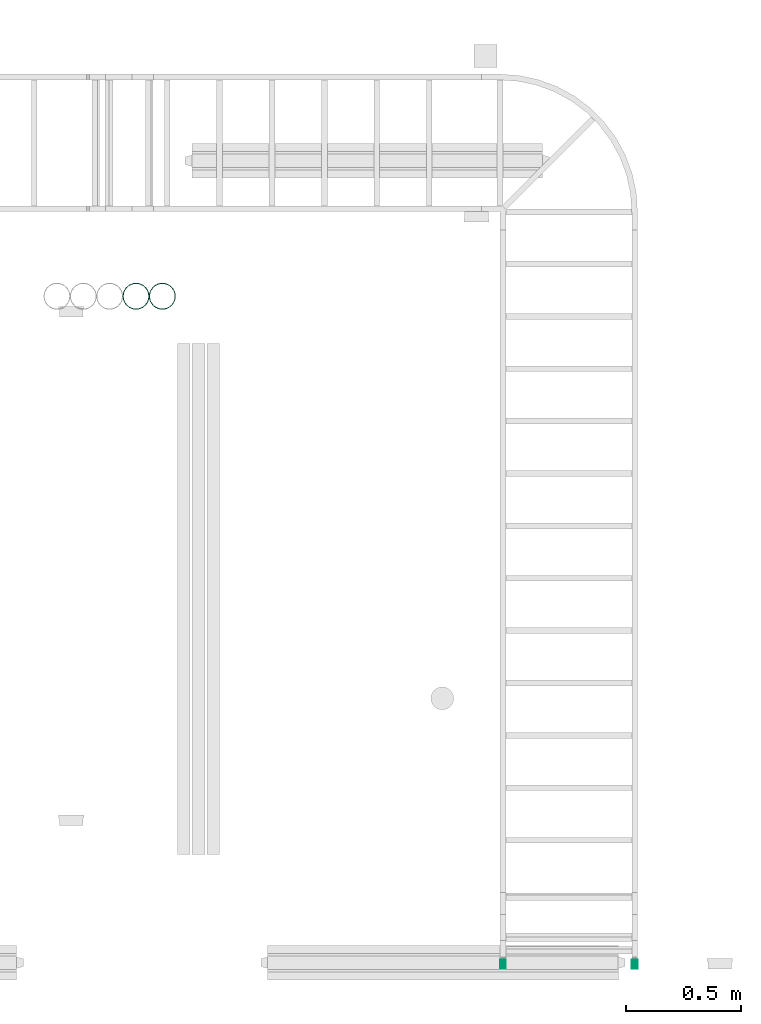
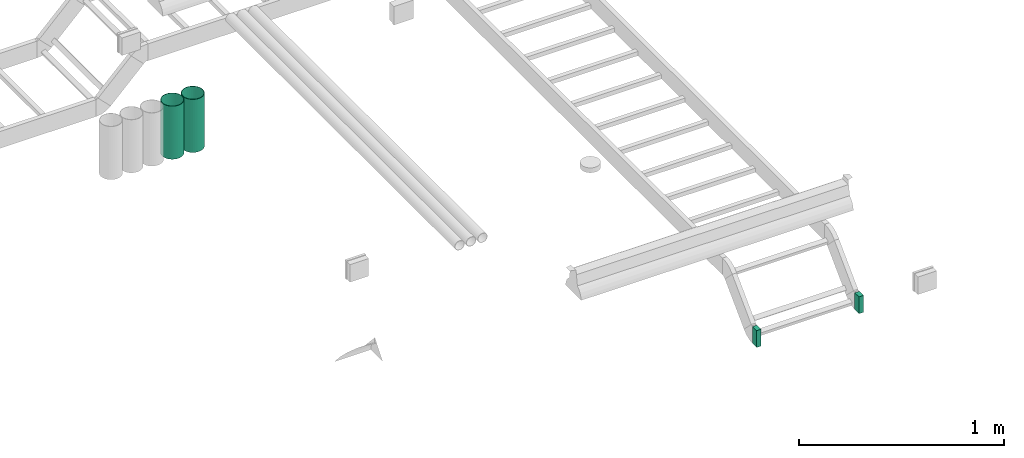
# One storey, part 12 of 14: 3 flow segments.
"""IFC2X3 building model written with IfcOpenShell, lengths in millimetres."""

import ifcopenshell
import ifcopenshell.guid

model = None  # the IFC model being written
_history = None  # IfcOwnerHistory: only IFC2X3 demands one
_inside = {}  # id of a spatial element -> (the spatial element, [elements in it])
_under = {}  # id of a project, library or spatial element -> (it, [spatial elements below it])
_declared = {}  # id of a project -> (the project, [libraries it declares])
_typed = {}  # id of a type object -> (the type object, [elements of that type])
_made_of = {}  # id of a material, layer set ... -> (it, [elements and type objects made of it])


def new_model(schema):
    """Start an empty IFC model of exactly this schema.

    Asked for "IFC4X3", IfcOpenShell would pick the latest addendum, in which some entities
    have other attributes; the version numbers below select the first issue.
    IFC2X3 requires an IfcOwnerHistory on every rooted entity: one is made here for all.
    """
    global model, _history
    if schema == "IFC4X3":
        model = ifcopenshell.file(schema_version=(4, 3, 0, 0))
    else:
        model = ifcopenshell.file(schema=schema)
    _inside.clear()
    _under.clear()
    _declared.clear()
    _typed.clear()
    _made_of.clear()
    _history = None
    if model.schema == "IFC2X3":
        org = make("IfcOrganization", Name="unknown")
        user = make(
            "IfcPersonAndOrganization",
            ThePerson=make("IfcPerson", FamilyName="unknown"),
            TheOrganization=org,
        )
        app = make(
            "IfcApplication",
            ApplicationDeveloper=org,
            Version="unknown",
            ApplicationFullName="unknown",
            ApplicationIdentifier="unknown",
        )
        _history = make(
            "IfcOwnerHistory",
            OwningUser=user,
            OwningApplication=app,
            ChangeAction="ADDED",
            CreationDate=0,
        )
    return model


def make(cls, **values):
    """One entity of the class cls with the attributes given. An attribute that is None is left unset."""
    return model.create_entity(
        cls, **{name: value for name, value in values.items() if value is not None}
    )


def entity(cls, *values):
    """Any entity or typed value of the class cls, its attributes in the order of the schema. None: left unset."""
    e = model.create_entity(cls)
    for i, value in enumerate(values):
        if value is not None:
            e[i] = value
    return e


def rooted(cls, **values):
    """An entity with a GlobalId (a new one), such as an element, a storey or a relation."""
    return make(cls, GlobalId=ifcopenshell.guid.new(), OwnerHistory=_history, **values)


def si_unit(unit_type, name, prefix=None):
    """IfcSIUnit, for example si_unit("LENGTHUNIT", "METRE", prefix="MILLI")."""
    return make("IfcSIUnit", UnitType=unit_type, Prefix=prefix, Name=name)


def converted_unit(unit_type, name, factor, base, dimensions=None, offset=None):
    """IfcConversionBasedUnit, such as the inch: factor (a typed value) times the base unit."""
    return make(
        "IfcConversionBasedUnit"
        if offset is None
        else "IfcConversionBasedUnitWithOffset",
        ConversionOffset=offset,
        Dimensions=None
        if dimensions is None
        else entity("IfcDimensionalExponents", *dimensions),
        UnitType=unit_type,
        Name=name,
        ConversionFactor=make(
            "IfcMeasureWithUnit", ValueComponent=factor, UnitComponent=base
        ),
    )


def derived_unit(unit_type, elements):
    """IfcDerivedUnit: a product of units, each with its exponent."""
    return make(
        "IfcDerivedUnit",
        Elements=[
            make("IfcDerivedUnitElement", Unit=unit, Exponent=power)
            for unit, power in elements
        ],
        UnitType=unit_type,
    )


def assignment(units):
    """IfcUnitAssignment: the units of a project."""
    return None if units is None else make("IfcUnitAssignment", Units=units)


def point(xyz):
    """IfcCartesianPoint."""
    return None if xyz is None else make("IfcCartesianPoint", Coordinates=xyz)


def direction(xyz):
    """IfcDirection."""
    return None if xyz is None else make("IfcDirection", DirectionRatios=xyz)


def frame(location, z_axis=None, x_axis=None):
    """IfcAxis2Placement3D, a coordinate frame: its origin and axes. An axis left out is left unset."""
    return make(
        "IfcAxis2Placement3D",
        Location=point(location),
        Axis=direction(z_axis),
        RefDirection=direction(x_axis),
    )


def origin_with_axes():
    """The frame at (0, 0, 0) with the z axis (0, 0, 1) and the x axis (1, 0, 0) written out."""
    return frame((0.0, 0.0, 0.0), z_axis=(0.0, 0.0, 1.0), x_axis=(1.0, 0.0, 0.0))


def place(relative_to, where):
    """IfcLocalPlacement: puts the frame where relative to a parent placement (None: the world)."""
    return make(
        "IfcLocalPlacement", PlacementRelTo=relative_to, RelativePlacement=where
    )


def context(
    kind, dimensions, precision=None, world=None, true_north=None, identifier=None
):
    """IfcGeometricRepresentationContext, for example the 3D "Model" context."""
    return make(
        "IfcGeometricRepresentationContext",
        ContextIdentifier=identifier,
        ContextType=kind,
        CoordinateSpaceDimension=dimensions,
        Precision=precision,
        WorldCoordinateSystem=world,
        TrueNorth=true_north,
    )


def subcontext(parent, identifier, kind, view, scale=None):
    """IfcGeometricRepresentationSubContext, for example "Body" below "Model"."""
    return make(
        "IfcGeometricRepresentationSubContext",
        ContextIdentifier=identifier,
        ContextType=kind,
        ParentContext=parent,
        TargetScale=scale,
        TargetView=view,
    )


def project(units=None, contexts=None):
    """IfcProject with its units and contexts."""
    return rooted(
        "IfcProject",
        Name="project",
        RepresentationContexts=contexts,
        UnitsInContext=assignment(units),
    )


def spatial(cls, under=None, at=None, **own):
    """A site, building, storey or space (cls), placed at a placement, below another one or the project."""
    s = rooted(cls, ObjectPlacement=at, **own)
    if under is not None:
        _under.setdefault(under.id(), (under, []))[1].append(s)
    return s


def faces_of(points, faces, orient=None, outer=None):
    """IfcFace entities. A face is a list of loops; a loop is a list of indices into points, from 0.

    orient and outer hold one flag for each loop. By default every Orientation is true, the
    first loop of a face is its IfcFaceOuterBound and the others are IfcFaceBound.
    """
    made = []
    for i, loops in enumerate(faces):
        bounds = []
        for j, loop in enumerate(loops):
            is_outer = j == 0 if outer is None else outer[i][j]
            bounds.append(
                make(
                    "IfcFaceOuterBound" if is_outer else "IfcFaceBound",
                    Bound=make("IfcPolyLoop", Polygon=[points[k] for k in loop]),
                    Orientation=True if orient is None else orient[i][j],
                )
            )
        made.append(make("IfcFace", Bounds=bounds))
    return made


def open_shell(faces, orient=None, outer=None):
    """The faces of one IfcOpenShell. surface_model builds it on its shared points."""
    return ("IfcOpenShell", faces, orient, outer)


def faceted_brep(points, faces, orient=None, outer=None, voids=None):
    """IfcFacetedBrep: a solid bounded by flat faces; with voids (closed shells), ...WithVoids."""
    shared = [point(p) for p in points]
    hull = make("IfcClosedShell", CfsFaces=faces_of(shared, faces, orient, outer))
    if voids is None:
        return make("IfcFacetedBrep", Outer=hull)
    return make(
        "IfcFacetedBrepWithVoids",
        Outer=hull,
        Voids=[
            make(cls, CfsFaces=faces_of(shared, fs, o, b)) for cls, fs, o, b in voids
        ],
    )


def surface_model(cls, points, shells):
    """IfcFaceBasedSurfaceModel or IfcShellBasedSurfaceModel (cls): surfaces that need not close."""
    shared = [point(p) for p in points]
    made = [make(c, CfsFaces=faces_of(shared, fs, o, b)) for c, fs, o, b in shells]
    if cls == "IfcFaceBasedSurfaceModel":
        return make(cls, FbsmFaces=made)
    return make(cls, SbsmBoundary=made)


def shape(context_of_items, identifier, shape_type, items):
    """IfcShapeRepresentation: the items that make up one representation, for example the "Body"."""
    return make(
        "IfcShapeRepresentation",
        ContextOfItems=context_of_items,
        RepresentationIdentifier=identifier,
        RepresentationType=shape_type,
        Items=items,
    )


def source(mapping_origin, context_of_items, identifier, shape_type, items):
    """IfcRepresentationMap: a shape defined once, which mapped items show again and again."""
    return make(
        "IfcRepresentationMap",
        MappingOrigin=mapping_origin,
        MappedRepresentation=shape(context_of_items, identifier, shape_type, items),
    )


def transform(
    local_origin,
    x_axis=None,
    y_axis=None,
    z_axis=None,
    scale=None,
    scale2=None,
    scale3=None,
    uniform=True,
):
    """IfcCartesianTransformationOperator3D, or its non-uniform kind. x_axis, y_axis, z_axis: its Axis1, 2, 3."""
    if uniform:
        return make(
            "IfcCartesianTransformationOperator3D",
            Axis1=direction(x_axis),
            Axis2=direction(y_axis),
            LocalOrigin=point(local_origin),
            Scale=scale,
            Axis3=direction(z_axis),
        )
    return make(
        "IfcCartesianTransformationOperator3DnonUniform",
        Axis1=direction(x_axis),
        Axis2=direction(y_axis),
        LocalOrigin=point(local_origin),
        Scale=scale,
        Axis3=direction(z_axis),
        Scale2=scale2,
        Scale3=scale3,
    )


def mapped(mapping_source, mapping_target):
    """IfcMappedItem: shows the shape of a source again, moved by a transform."""
    return make(
        "IfcMappedItem", MappingSource=mapping_source, MappingTarget=mapping_target
    )


def made_of(thing, what):
    """Note that an element or type object is made of a material, layer set ...; save() writes the relation."""
    if what is not None:
        _made_of.setdefault(what.id(), (what, []))[1].append(thing)
    return thing


def type_object(cls, material=None, **own):
    """A type object (cls), such as IfcWallType, which elements share."""
    return made_of(rooted(cls, **own), material)


def element(
    cls,
    number,
    at=None,
    inside=None,
    cuts=None,
    type_object=None,
    material=None,
    context=None,
    identifier="Body",
    shape_type=None,
    held_by="IfcProductDefinitionShape",
    body=None,
    shapes=None,
    **own,
):
    """One element of the class cls, such as IfcWall. Its Tag is "e" and its number.

    at: its placement. inside: the storey or other place that contains it. cuts: it is an
    opening in that element (IfcRelVoidsElement). A single representation is given by context,
    identifier, shape_type and body (its items); several are given by shapes. held_by: the class
    of the entity that holds the representations. save() writes the other relations.
    """
    e = rooted(cls, Tag="e%d" % number, ObjectPlacement=at, **own)
    if body is not None:
        shapes = [shape(context, identifier, shape_type, body)]
    if shapes is not None:
        e.Representation = make(held_by, Representations=shapes)
    if inside is not None:
        _inside.setdefault(inside.id(), (inside, []))[1].append(e)
    if cuts is not None:
        rooted(
            "IfcRelVoidsElement", RelatingBuildingElement=cuts, RelatedOpeningElement=e
        )
    if type_object is not None:
        _typed.setdefault(type_object.id(), (type_object, []))[1].append(e)
    return made_of(e, material)


def aggregate(whole, parts):
    """IfcRelAggregates: a whole, such as a stair, and the parts it consists of."""
    return rooted("IfcRelAggregates", RelatingObject=whole, RelatedObjects=parts)


def save(model, path):
    """Write the relations noted so far, then the file.

    IfcRelAggregates (storeys below a building ...), IfcRelContainedInSpatialStructure (elements
    in a storey), IfcRelDefinesByType, IfcRelAssociatesMaterial and IfcRelDeclares: one each for
    every whole, place, type object, material and project.
    """
    for whole, parts in _under.values():
        aggregate(whole, parts)
    for where, things in _inside.values():
        rooted(
            "IfcRelContainedInSpatialStructure",
            RelatedElements=things,
            RelatingStructure=where,
        )
    for kind, things in _typed.values():
        rooted("IfcRelDefinesByType", RelatedObjects=things, RelatingType=kind)
    for what, things in _made_of.values():
        rooted("IfcRelAssociatesMaterial", RelatedObjects=things, RelatingMaterial=what)
    for by, libraries in _declared.values():
        rooted("IfcRelDeclares", RelatingContext=by, RelatedDefinitions=libraries)
    model.write(path)


model = new_model("IFC2X3")

# Units and contexts
model_context = context("Model", 3, precision=0.01, world=frame((0.0, 4.29681676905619e-09, 0.0)), true_north=direction((4.01073788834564e-13, 1.0)))
plan_context = context("Plan", 3, precision=0.01, world=frame((0.0, 4.29681676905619e-09, 0.0)), true_north=direction((4.01073788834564e-13, 1.0)))
body_context = subcontext(model_context, "Body", "Model", "MODEL_VIEW")
ifc_project = project(units=[converted_unit("PLANEANGLEUNIT", "DEGREE", entity("IfcPositiveLengthMeasure", 0.0174532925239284), si_unit("PLANEANGLEUNIT", "RADIAN"), dimensions=[0, 0, 0, 0, 0, 0, 0]), si_unit("AREAUNIT", "SQUARE_METRE"), si_unit("LENGTHUNIT", "METRE", prefix="MILLI"), si_unit("MASSUNIT", "GRAM", prefix="KILO"), si_unit("POWERUNIT", "WATT"), si_unit("PRESSUREUNIT", "PASCAL"), si_unit("FORCEUNIT", "NEWTON", prefix="KILO"), si_unit("ELECTRICVOLTAGEUNIT", "VOLT"), si_unit("ELECTRICCURRENTUNIT", "AMPERE"), si_unit("THERMODYNAMICTEMPERATUREUNIT", "DEGREE_CELSIUS"), si_unit("TIMEUNIT", "SECOND"), si_unit("VOLUMEUNIT", "CUBIC_METRE"), derived_unit("LINEARVELOCITYUNIT", [(si_unit("LENGTHUNIT", "METRE"), 1), (si_unit("TIMEUNIT", "SECOND"), -1)]), derived_unit("VOLUMETRICFLOWRATEUNIT", [(si_unit("VOLUMEUNIT", "CUBIC_METRE"), 1), (si_unit("TIMEUNIT", "SECOND"), -1)]), derived_unit("THERMALTRANSMITTANCEUNIT", [(si_unit("POWERUNIT", "WATT"), 1), (si_unit("THERMODYNAMICTEMPERATUREUNIT", "KELVIN"), -1), (si_unit("AREAUNIT", "SQUARE_METRE"), -1)]), derived_unit("SOUNDPRESSUREUNIT", [(si_unit("PRESSUREUNIT", "PASCAL"), 1)])], contexts=[model_context, plan_context])

# Site, building, storey
site_placement = place(None, frame((0.0, -4.29681676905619e-09, 0.0), z_axis=(0.0, 0.0, 1.0), x_axis=(1.0, 0.0, 0.0)))
site = spatial("IfcSite", under=ifc_project, at=site_placement, Name="ENGM", CompositionType="ELEMENT")
building_placement = place(site_placement, frame((0.0, 4.29681676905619e-09, 0.0), z_axis=(0.0, 0.0, 1.0), x_axis=(1.0, 0.0, 0.0)))
building = spatial("IfcBuilding", under=site, at=building_placement, Name="TH", CompositionType="ELEMENT")
storey_placement = place(building_placement, frame((0.0, 0.0, 205200.0), z_axis=(0.0, 0.0, 1.0), x_axis=(1.0, 0.0, 0.0)))
storey = spatial("IfcBuildingStorey", under=building, at=storey_placement, Name="Nivå D + 1,2 m", CompositionType="ELEMENT", Elevation=205200.0)

# Flow segments
cable_carrier_segment_type_1 = type_object("IfcCableCarrierSegmentType", Name="Kabelbro", PredefinedType="CABLELADDERSEGMENT")
shared_shape = source(origin_with_axes(), body_context, "Body", "SurfaceModel", [
    surface_model("IfcShellBasedSurfaceModel", [(0.0, -300.0, -50.0), (0.0, -300.0, 50.0), (0.0, -274.60001, 50.0), (0.0, -274.60001, -50.0), (0.0, 274.60001, -50.0), (0.0, 274.60001, 50.0), (0.0, 300.0, 50.0), (0.0, 300.0, -50.0), (40.53435, -274.60001, 50.0), (40.53435, -300.0, 50.0), (40.53435, -300.0, -50.0), (40.53435, -274.60001, -50.0), (40.53435, 300.0, 50.0), (40.53435, 274.60001, 50.0), (40.53435, 274.60001, -50.0), (40.53435, 300.0, -50.0)], [open_shell([[[0, 1, 2]], [[2, 3, 0]], [[4, 5, 6]], [[6, 7, 4]], [[8, 9, 10]], [[10, 11, 8]], [[12, 13, 14]], [[14, 15, 12]], [[1, 0, 10]], [[10, 9, 1]], [[2, 1, 9]], [[9, 8, 2]], [[3, 2, 8]], [[8, 11, 3]], [[0, 3, 11]], [[11, 10, 0]], [[7, 6, 12]], [[12, 15, 7]], [[4, 7, 15]], [[15, 14, 4]], [[5, 4, 14]], [[14, 13, 5]], [[6, 5, 13]], [[13, 12, 6]]])]),
])
flow_segment_1_placement = place(storey_placement, frame((900805.0, 477610.54686, 4115.29999999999), z_axis=(0.0, 0.0, 1.0), x_axis=(0.0, -1.0, 0.0)))
element("IfcFlowSegment", 1, at=flow_segment_1_placement, inside=storey, type_object=cable_carrier_segment_type_1, Name="Kabelbro", context=body_context, shape_type="MappedRepresentation", body=[
    mapped(shared_shape, transform((0.0, 0.0, 0.0), scale=1.0)),
])
cable_carrier_segment_type_2 = type_object("IfcCableCarrierSegmentType", Name="Trekkerør, glatt", PredefinedType="CONDUITSEGMENT")
flow_segment_2_placement = place(storey_placement, frame((898915.96951, 480505.64423, 2515.29999999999), z_axis=(-1.0, 0.0, 0.0), x_axis=(0.0, 0.0, 1.0)))
element("IfcFlowSegment", 2, at=flow_segment_2_placement, inside=storey, type_object=cable_carrier_segment_type_2, Name="Trekkerør, glatt", context=body_context, shape_type="Brep", body=[
    faceted_brep([(1484.70000000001, 54.2629071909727, -9.56801458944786), (1484.70000000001, 55.1, 0.0), (1800.0, 55.1, 0.0), (1800.0, 54.2629071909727, -9.56801458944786), (1484.70000000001, 51.7770634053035, -18.8453098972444), (1800.0, 51.7770634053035, -18.8453098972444), (1484.70000000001, 47.7179997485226, -27.55), (1800.0, 47.7179997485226, -27.55), (1484.70000000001, 42.2090488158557, -35.4175972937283), (1800.0, 42.2090488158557, -35.4175972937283), (1484.70000000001, 35.4175972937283, -42.2090488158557), (1800.0, 35.4175972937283, -42.2090488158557), (1484.70000000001, 27.55, -47.7179997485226), (1800.0, 27.55, -47.7179997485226), (1484.70000000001, 18.8453098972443, -51.7770634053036), (1800.0, 18.8453098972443, -51.7770634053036), (1484.70000000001, 9.56801458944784, -54.2629071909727), (1800.0, 9.56801458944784, -54.2629071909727), (1484.70000000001, -1.01217057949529e-14, -55.1), (1800.0, -1.01217057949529e-14, -55.1), (1484.70000000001, -9.56801458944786, -54.2629071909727), (1800.0, -9.56801458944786, -54.2629071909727), (1484.70000000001, -18.8453098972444, -51.7770634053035), (1800.0, -18.8453098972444, -51.7770634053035), (1484.70000000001, -27.55, -47.7179997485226), (1800.0, -27.55, -47.7179997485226), (1484.70000000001, -35.4175972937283, -42.2090488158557), (1800.0, -35.4175972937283, -42.2090488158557), (1484.70000000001, -42.2090488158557, -35.4175972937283), (1800.0, -42.2090488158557, -35.4175972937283), (1484.70000000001, -47.7179997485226, -27.55), (1800.0, -47.7179997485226, -27.55), (1484.70000000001, -51.7770634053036, -18.8453098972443), (1800.0, -51.7770634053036, -18.8453098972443), (1484.70000000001, -54.2629071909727, -9.56801458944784), (1800.0, -54.2629071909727, -9.56801458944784), (1484.70000000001, -55.1, 6.74780386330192e-15), (1800.0, -55.1, 6.74780386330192e-15), (1484.70000000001, -54.2629071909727, 9.56801458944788), (1800.0, -54.2629071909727, 9.56801458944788), (1484.70000000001, -51.7770634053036, 18.8453098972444), (1800.0, -51.7770634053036, 18.8453098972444), (1484.70000000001, -47.7179997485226, 27.55), (1800.0, -47.7179997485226, 27.55), (1484.70000000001, -42.2090488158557, 35.4175972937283), (1800.0, -42.2090488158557, 35.4175972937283), (1484.70000000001, -35.4175972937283, 42.2090488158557), (1800.0, -35.4175972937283, 42.2090488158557), (1484.70000000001, -27.55, 47.7179997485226), (1800.0, -27.55, 47.7179997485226), (1484.70000000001, -18.8453098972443, 51.7770634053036), (1800.0, -18.8453098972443, 51.7770634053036), (1484.70000000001, -9.56801458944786, 54.2629071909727), (1800.0, -9.56801458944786, 54.2629071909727), (1484.70000000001, 3.37390193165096e-15, 55.1), (1800.0, 3.37390193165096e-15, 55.1), (1484.70000000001, 9.56801458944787, 54.2629071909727), (1800.0, 9.56801458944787, 54.2629071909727), (1484.70000000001, 18.8453098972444, 51.7770634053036), (1800.0, 18.8453098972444, 51.7770634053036), (1484.70000000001, 27.55, 47.7179997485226), (1800.0, 27.55, 47.7179997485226), (1484.70000000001, 35.4175972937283, 42.2090488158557), (1800.0, 35.4175972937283, 42.2090488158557), (1484.70000000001, 42.2090488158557, 35.4175972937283), (1800.0, 42.2090488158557, 35.4175972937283), (1484.70000000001, 47.7179997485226, 27.55), (1800.0, 47.7179997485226, 27.55), (1484.70000000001, 51.7770634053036, 18.8453098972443), (1800.0, 51.7770634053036, 18.8453098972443), (1484.70000000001, 54.2629071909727, 9.56801458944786), (1800.0, 54.2629071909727, 9.56801458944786), (1484.70000000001, 57.1, 0.0), (1484.70000000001, 56.2325226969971, -9.91531094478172), (1800.0, 56.2325226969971, -9.91531094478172), (1800.0, 57.1, 0.0), (1484.70000000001, 56.2325226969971, 9.91531094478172), (1800.0, 56.2325226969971, 9.91531094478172), (1484.70000000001, 53.6564486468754, 19.5293501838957), (1800.0, 53.6564486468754, 19.5293501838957), (1484.70000000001, 49.4500505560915, 28.55), (1800.0, 49.4500505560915, 28.55), (1484.70000000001, 43.7411377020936, 36.7031725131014), (1800.0, 43.7411377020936, 36.7031725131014), (1484.70000000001, 36.7031725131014, 43.7411377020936), (1800.0, 36.7031725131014, 43.7411377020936), (1484.70000000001, 28.55, 49.4500505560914), (1800.0, 28.55, 49.4500505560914), (1484.70000000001, 19.5293501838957, 53.6564486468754), (1800.0, 19.5293501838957, 53.6564486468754), (1484.70000000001, 9.91531094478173, 56.2325226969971), (1800.0, 9.91531094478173, 56.2325226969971), (1484.70000000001, 3.49636661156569e-15, 57.1), (1800.0, 3.49636661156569e-15, 57.1), (1484.70000000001, -9.91531094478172, 56.2325226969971), (1800.0, -9.91531094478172, 56.2325226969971), (1484.70000000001, -19.5293501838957, 53.6564486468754), (1800.0, -19.5293501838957, 53.6564486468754), (1484.70000000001, -28.55, 49.4500505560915), (1800.0, -28.55, 49.4500505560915), (1484.70000000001, -36.7031725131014, 43.7411377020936), (1800.0, -36.7031725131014, 43.7411377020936), (1484.70000000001, -43.7411377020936, 36.7031725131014), (1800.0, -43.7411377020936, 36.7031725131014), (1484.70000000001, -49.4500505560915, 28.55), (1800.0, -49.4500505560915, 28.55), (1484.70000000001, -53.6564486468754, 19.5293501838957), (1800.0, -53.6564486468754, 19.5293501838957), (1484.70000000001, -56.2325226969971, 9.91531094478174), (1800.0, -56.2325226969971, 9.91531094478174), (1484.70000000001, -57.1, 6.99273322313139e-15), (1800.0, -57.1, 6.99273322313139e-15), (1484.70000000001, -56.2325226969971, -9.9153109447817), (1800.0, -56.2325226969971, -9.91531094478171), (1484.70000000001, -53.6564486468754, -19.5293501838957), (1800.0, -53.6564486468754, -19.5293501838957), (1484.70000000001, -49.4500505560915, -28.55), (1800.0, -49.4500505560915, -28.55), (1484.70000000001, -43.7411377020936, -36.7031725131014), (1800.0, -43.7411377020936, -36.7031725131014), (1484.70000000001, -36.7031725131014, -43.7411377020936), (1800.0, -36.7031725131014, -43.7411377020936), (1484.70000000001, -28.55, -49.4500505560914), (1800.0, -28.55, -49.4500505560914), (1484.70000000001, -19.5293501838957, -53.6564486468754), (1800.0, -19.5293501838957, -53.6564486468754), (1484.70000000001, -9.91531094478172, -56.2325226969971), (1800.0, -9.91531094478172, -56.2325226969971), (1484.70000000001, -1.04890998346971e-14, -57.1), (1800.0, -1.04890998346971e-14, -57.1), (1484.70000000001, 9.9153109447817, -56.2325226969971), (1800.0, 9.9153109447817, -56.2325226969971), (1484.70000000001, 19.5293501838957, -53.6564486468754), (1800.0, 19.5293501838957, -53.6564486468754), (1484.70000000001, 28.55, -49.4500505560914), (1800.0, 28.55, -49.4500505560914), (1484.70000000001, 36.7031725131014, -43.7411377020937), (1800.0, 36.7031725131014, -43.7411377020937), (1484.70000000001, 43.7411377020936, -36.7031725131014), (1800.0, 43.7411377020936, -36.7031725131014), (1484.70000000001, 49.4500505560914, -28.55), (1800.0, 49.4500505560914, -28.55), (1484.70000000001, 53.6564486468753, -19.5293501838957), (1800.0, 53.6564486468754, -19.5293501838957)], [[[0, 1, 2, 3]], [[4, 0, 3, 5]], [[6, 4, 5, 7]], [[8, 6, 7, 9]], [[10, 8, 9, 11]], [[12, 10, 11, 13]], [[14, 12, 13, 15]], [[16, 14, 15, 17]], [[18, 16, 17, 19]], [[20, 18, 19, 21]], [[22, 20, 21, 23]], [[24, 22, 23, 25]], [[26, 24, 25, 27]], [[28, 26, 27, 29]], [[30, 28, 29, 31]], [[32, 30, 31, 33]], [[34, 32, 33, 35]], [[36, 34, 35, 37]], [[38, 36, 37, 39]], [[40, 38, 39, 41]], [[42, 40, 41, 43]], [[44, 42, 43, 45]], [[46, 44, 45, 47]], [[48, 46, 47, 49]], [[50, 48, 49, 51]], [[52, 50, 51, 53]], [[54, 52, 53, 55]], [[56, 54, 55, 57]], [[58, 56, 57, 59]], [[60, 58, 59, 61]], [[62, 60, 61, 63]], [[64, 62, 63, 65]], [[66, 64, 65, 67]], [[68, 66, 67, 69]], [[70, 68, 69, 71]], [[1, 70, 71, 2]], [[72, 73, 74, 75]], [[76, 72, 75, 77]], [[78, 76, 77, 79]], [[80, 78, 79, 81]], [[82, 80, 81, 83]], [[84, 82, 83, 85]], [[86, 84, 85, 87]], [[88, 86, 87, 89]], [[90, 88, 89, 91]], [[92, 90, 91, 93]], [[94, 92, 93, 95]], [[96, 94, 95, 97]], [[98, 96, 97, 99]], [[100, 98, 99, 101]], [[102, 100, 101, 103]], [[104, 102, 103, 105]], [[106, 104, 105, 107]], [[108, 106, 107, 109]], [[110, 108, 109, 111]], [[112, 110, 111, 113]], [[114, 112, 113, 115]], [[116, 114, 115, 117]], [[118, 116, 117, 119]], [[120, 118, 119, 121]], [[122, 120, 121, 123]], [[124, 122, 123, 125]], [[126, 124, 125, 127]], [[128, 126, 127, 129]], [[130, 128, 129, 131]], [[132, 130, 131, 133]], [[134, 132, 133, 135]], [[136, 134, 135, 137]], [[138, 136, 137, 139]], [[140, 138, 139, 141]], [[142, 140, 141, 143]], [[73, 142, 143, 74]], [[75, 74, 143, 141, 139, 137, 135, 133, 131, 129, 127, 125, 123, 121, 119, 117, 115, 113, 111, 109, 107, 105, 103, 101, 99, 97, 95, 93, 91, 89, 87, 85, 83, 81, 79, 77], [2, 71, 69, 67, 65, 63, 61, 59, 57, 55, 53, 51, 49, 47, 45, 43, 41, 39, 37, 35, 33, 31, 29, 27, 25, 23, 21, 19, 17, 15, 13, 11, 9, 7, 5, 3]], [[76, 78, 80, 82, 84, 86, 88, 90, 92, 94, 96, 98, 100, 102, 104, 106, 108, 110, 112, 114, 116, 118, 120, 122, 124, 126, 128, 130, 132, 134, 136, 138, 140, 142, 73, 72], [4, 6, 8, 10, 12, 14, 16, 18, 20, 22, 24, 26, 28, 30, 32, 34, 36, 38, 40, 42, 44, 46, 48, 50, 52, 54, 56, 58, 60, 62, 64, 66, 68, 70, 1, 0]]], orient=[[False], [False], [False], [False], [False], [False], [False], [False], [False], [False], [False], [False], [False], [False], [False], [False], [False], [False], [False], [False], [False], [False], [False], [False], [False], [False], [False], [False], [False], [False], [False], [False], [False], [False], [False], [False], [False], [False], [False], [False], [False], [False], [False], [False], [False], [False], [False], [False], [False], [False], [False], [False], [False], [False], [False], [False], [False], [False], [False], [False], [False], [False], [False], [False], [False], [False], [False], [False], [False], [False], [False], [False], [False, False], [False, False]]),
])
flow_segment_3_placement = place(storey_placement, frame((899030.96951, 480505.64423, 2515.29999999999), z_axis=(-1.0, 0.0, 0.0), x_axis=(0.0, 0.0, 1.0)))
element("IfcFlowSegment", 3, at=flow_segment_3_placement, inside=storey, type_object=cable_carrier_segment_type_2, Name="Trekkerør, glatt", context=body_context, shape_type="Brep", body=[
    faceted_brep([(1484.70000000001, 54.2629071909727, -9.56801458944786), (1484.70000000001, 55.1, 0.0), (1800.0, 55.1, 0.0), (1800.0, 54.2629071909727, -9.56801458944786), (1484.70000000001, 51.7770634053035, -18.8453098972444), (1800.0, 51.7770634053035, -18.8453098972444), (1484.70000000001, 47.7179997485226, -27.55), (1800.0, 47.7179997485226, -27.55), (1484.70000000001, 42.2090488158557, -35.4175972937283), (1800.0, 42.2090488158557, -35.4175972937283), (1484.70000000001, 35.4175972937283, -42.2090488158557), (1800.0, 35.4175972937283, -42.2090488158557), (1484.70000000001, 27.55, -47.7179997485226), (1800.0, 27.55, -47.7179997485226), (1484.70000000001, 18.8453098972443, -51.7770634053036), (1800.0, 18.8453098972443, -51.7770634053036), (1484.70000000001, 9.56801458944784, -54.2629071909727), (1800.0, 9.56801458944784, -54.2629071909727), (1484.70000000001, -1.01217057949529e-14, -55.1), (1800.0, -1.01217057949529e-14, -55.1), (1484.70000000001, -9.56801458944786, -54.2629071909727), (1800.0, -9.56801458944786, -54.2629071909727), (1484.70000000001, -18.8453098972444, -51.7770634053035), (1800.0, -18.8453098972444, -51.7770634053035), (1484.70000000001, -27.55, -47.7179997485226), (1800.0, -27.55, -47.7179997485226), (1484.70000000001, -35.4175972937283, -42.2090488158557), (1800.0, -35.4175972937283, -42.2090488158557), (1484.70000000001, -42.2090488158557, -35.4175972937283), (1800.0, -42.2090488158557, -35.4175972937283), (1484.70000000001, -47.7179997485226, -27.55), (1800.0, -47.7179997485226, -27.55), (1484.70000000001, -51.7770634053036, -18.8453098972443), (1800.0, -51.7770634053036, -18.8453098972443), (1484.70000000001, -54.2629071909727, -9.56801458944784), (1800.0, -54.2629071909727, -9.56801458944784), (1484.70000000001, -55.1, 6.74780386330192e-15), (1800.0, -55.1, 6.74780386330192e-15), (1484.70000000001, -54.2629071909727, 9.56801458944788), (1800.0, -54.2629071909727, 9.56801458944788), (1484.70000000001, -51.7770634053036, 18.8453098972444), (1800.0, -51.7770634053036, 18.8453098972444), (1484.70000000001, -47.7179997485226, 27.55), (1800.0, -47.7179997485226, 27.55), (1484.70000000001, -42.2090488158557, 35.4175972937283), (1800.0, -42.2090488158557, 35.4175972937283), (1484.70000000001, -35.4175972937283, 42.2090488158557), (1800.0, -35.4175972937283, 42.2090488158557), (1484.70000000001, -27.55, 47.7179997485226), (1800.0, -27.55, 47.7179997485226), (1484.70000000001, -18.8453098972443, 51.7770634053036), (1800.0, -18.8453098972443, 51.7770634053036), (1484.70000000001, -9.56801458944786, 54.2629071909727), (1800.0, -9.56801458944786, 54.2629071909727), (1484.70000000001, 3.37390193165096e-15, 55.1), (1800.0, 3.37390193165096e-15, 55.1), (1484.70000000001, 9.56801458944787, 54.2629071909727), (1800.0, 9.56801458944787, 54.2629071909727), (1484.70000000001, 18.8453098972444, 51.7770634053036), (1800.0, 18.8453098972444, 51.7770634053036), (1484.70000000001, 27.55, 47.7179997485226), (1800.0, 27.55, 47.7179997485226), (1484.70000000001, 35.4175972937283, 42.2090488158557), (1800.0, 35.4175972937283, 42.2090488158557), (1484.70000000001, 42.2090488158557, 35.4175972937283), (1800.0, 42.2090488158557, 35.4175972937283), (1484.70000000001, 47.7179997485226, 27.55), (1800.0, 47.7179997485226, 27.55), (1484.70000000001, 51.7770634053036, 18.8453098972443), (1800.0, 51.7770634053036, 18.8453098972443), (1484.70000000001, 54.2629071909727, 9.56801458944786), (1800.0, 54.2629071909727, 9.56801458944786), (1484.70000000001, 57.1, 0.0), (1484.70000000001, 56.2325226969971, -9.91531094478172), (1800.0, 56.2325226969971, -9.91531094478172), (1800.0, 57.1, 0.0), (1484.70000000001, 56.2325226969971, 9.91531094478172), (1800.0, 56.2325226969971, 9.91531094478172), (1484.70000000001, 53.6564486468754, 19.5293501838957), (1800.0, 53.6564486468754, 19.5293501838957), (1484.70000000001, 49.4500505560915, 28.55), (1800.0, 49.4500505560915, 28.55), (1484.70000000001, 43.7411377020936, 36.7031725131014), (1800.0, 43.7411377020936, 36.7031725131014), (1484.70000000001, 36.7031725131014, 43.7411377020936), (1800.0, 36.7031725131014, 43.7411377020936), (1484.70000000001, 28.55, 49.4500505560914), (1800.0, 28.55, 49.4500505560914), (1484.70000000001, 19.5293501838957, 53.6564486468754), (1800.0, 19.5293501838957, 53.6564486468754), (1484.70000000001, 9.91531094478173, 56.2325226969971), (1800.0, 9.91531094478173, 56.2325226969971), (1484.70000000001, 3.49636661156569e-15, 57.1), (1800.0, 3.49636661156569e-15, 57.1), (1484.70000000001, -9.91531094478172, 56.2325226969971), (1800.0, -9.91531094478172, 56.2325226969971), (1484.70000000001, -19.5293501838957, 53.6564486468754), (1800.0, -19.5293501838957, 53.6564486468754), (1484.70000000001, -28.55, 49.4500505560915), (1800.0, -28.55, 49.4500505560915), (1484.70000000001, -36.7031725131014, 43.7411377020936), (1800.0, -36.7031725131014, 43.7411377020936), (1484.70000000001, -43.7411377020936, 36.7031725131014), (1800.0, -43.7411377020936, 36.7031725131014), (1484.70000000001, -49.4500505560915, 28.55), (1800.0, -49.4500505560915, 28.55), (1484.70000000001, -53.6564486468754, 19.5293501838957), (1800.0, -53.6564486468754, 19.5293501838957), (1484.70000000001, -56.2325226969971, 9.91531094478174), (1800.0, -56.2325226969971, 9.91531094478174), (1484.70000000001, -57.1, 6.99273322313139e-15), (1800.0, -57.1, 6.99273322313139e-15), (1484.70000000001, -56.2325226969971, -9.9153109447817), (1800.0, -56.2325226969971, -9.91531094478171), (1484.70000000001, -53.6564486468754, -19.5293501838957), (1800.0, -53.6564486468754, -19.5293501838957), (1484.70000000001, -49.4500505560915, -28.55), (1800.0, -49.4500505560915, -28.55), (1484.70000000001, -43.7411377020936, -36.7031725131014), (1800.0, -43.7411377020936, -36.7031725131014), (1484.70000000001, -36.7031725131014, -43.7411377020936), (1800.0, -36.7031725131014, -43.7411377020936), (1484.70000000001, -28.55, -49.4500505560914), (1800.0, -28.55, -49.4500505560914), (1484.70000000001, -19.5293501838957, -53.6564486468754), (1800.0, -19.5293501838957, -53.6564486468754), (1484.70000000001, -9.91531094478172, -56.2325226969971), (1800.0, -9.91531094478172, -56.2325226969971), (1484.70000000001, -1.04890998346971e-14, -57.1), (1800.0, -1.04890998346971e-14, -57.1), (1484.70000000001, 9.9153109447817, -56.2325226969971), (1800.0, 9.9153109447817, -56.2325226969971), (1484.70000000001, 19.5293501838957, -53.6564486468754), (1800.0, 19.5293501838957, -53.6564486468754), (1484.70000000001, 28.55, -49.4500505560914), (1800.0, 28.55, -49.4500505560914), (1484.70000000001, 36.7031725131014, -43.7411377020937), (1800.0, 36.7031725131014, -43.7411377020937), (1484.70000000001, 43.7411377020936, -36.7031725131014), (1800.0, 43.7411377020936, -36.7031725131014), (1484.70000000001, 49.4500505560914, -28.55), (1800.0, 49.4500505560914, -28.55), (1484.70000000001, 53.6564486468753, -19.5293501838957), (1800.0, 53.6564486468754, -19.5293501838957)], [[[0, 1, 2, 3]], [[4, 0, 3, 5]], [[6, 4, 5, 7]], [[8, 6, 7, 9]], [[10, 8, 9, 11]], [[12, 10, 11, 13]], [[14, 12, 13, 15]], [[16, 14, 15, 17]], [[18, 16, 17, 19]], [[20, 18, 19, 21]], [[22, 20, 21, 23]], [[24, 22, 23, 25]], [[26, 24, 25, 27]], [[28, 26, 27, 29]], [[30, 28, 29, 31]], [[32, 30, 31, 33]], [[34, 32, 33, 35]], [[36, 34, 35, 37]], [[38, 36, 37, 39]], [[40, 38, 39, 41]], [[42, 40, 41, 43]], [[44, 42, 43, 45]], [[46, 44, 45, 47]], [[48, 46, 47, 49]], [[50, 48, 49, 51]], [[52, 50, 51, 53]], [[54, 52, 53, 55]], [[56, 54, 55, 57]], [[58, 56, 57, 59]], [[60, 58, 59, 61]], [[62, 60, 61, 63]], [[64, 62, 63, 65]], [[66, 64, 65, 67]], [[68, 66, 67, 69]], [[70, 68, 69, 71]], [[1, 70, 71, 2]], [[72, 73, 74, 75]], [[76, 72, 75, 77]], [[78, 76, 77, 79]], [[80, 78, 79, 81]], [[82, 80, 81, 83]], [[84, 82, 83, 85]], [[86, 84, 85, 87]], [[88, 86, 87, 89]], [[90, 88, 89, 91]], [[92, 90, 91, 93]], [[94, 92, 93, 95]], [[96, 94, 95, 97]], [[98, 96, 97, 99]], [[100, 98, 99, 101]], [[102, 100, 101, 103]], [[104, 102, 103, 105]], [[106, 104, 105, 107]], [[108, 106, 107, 109]], [[110, 108, 109, 111]], [[112, 110, 111, 113]], [[114, 112, 113, 115]], [[116, 114, 115, 117]], [[118, 116, 117, 119]], [[120, 118, 119, 121]], [[122, 120, 121, 123]], [[124, 122, 123, 125]], [[126, 124, 125, 127]], [[128, 126, 127, 129]], [[130, 128, 129, 131]], [[132, 130, 131, 133]], [[134, 132, 133, 135]], [[136, 134, 135, 137]], [[138, 136, 137, 139]], [[140, 138, 139, 141]], [[142, 140, 141, 143]], [[73, 142, 143, 74]], [[75, 74, 143, 141, 139, 137, 135, 133, 131, 129, 127, 125, 123, 121, 119, 117, 115, 113, 111, 109, 107, 105, 103, 101, 99, 97, 95, 93, 91, 89, 87, 85, 83, 81, 79, 77], [2, 71, 69, 67, 65, 63, 61, 59, 57, 55, 53, 51, 49, 47, 45, 43, 41, 39, 37, 35, 33, 31, 29, 27, 25, 23, 21, 19, 17, 15, 13, 11, 9, 7, 5, 3]], [[76, 78, 80, 82, 84, 86, 88, 90, 92, 94, 96, 98, 100, 102, 104, 106, 108, 110, 112, 114, 116, 118, 120, 122, 124, 126, 128, 130, 132, 134, 136, 138, 140, 142, 73, 72], [4, 6, 8, 10, 12, 14, 16, 18, 20, 22, 24, 26, 28, 30, 32, 34, 36, 38, 40, 42, 44, 46, 48, 50, 52, 54, 56, 58, 60, 62, 64, 66, 68, 70, 1, 0]]], orient=[[False], [False], [False], [False], [False], [False], [False], [False], [False], [False], [False], [False], [False], [False], [False], [False], [False], [False], [False], [False], [False], [False], [False], [False], [False], [False], [False], [False], [False], [False], [False], [False], [False], [False], [False], [False], [False], [False], [False], [False], [False], [False], [False], [False], [False], [False], [False], [False], [False], [False], [False], [False], [False], [False], [False], [False], [False], [False], [False], [False], [False], [False], [False], [False], [False], [False], [False], [False], [False], [False], [False], [False], [False, False], [False, False]]),
])

save(model, "model.ifc")
